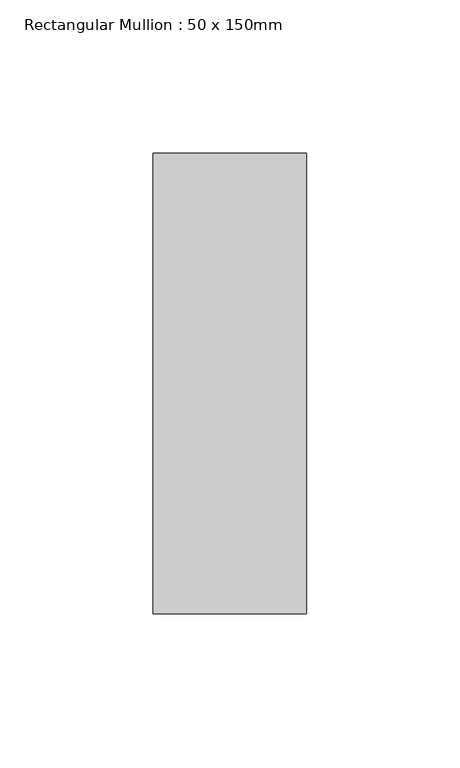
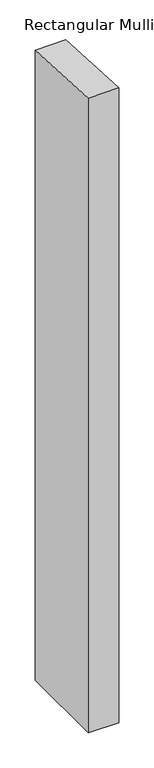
"""IFC4 building model written with IfcOpenShell, lengths in millimetres: member geometry, Rectangular Mullion : 50 x 150mm."""

from ifc_helpers import new_model, si_unit, origin, place, context, project, spatial, faceted_brep, source, transform, mapped, element, save


def rectangular_mullion_50_x_150mm_afde21c2(model_context):
    return source(origin(), model_context, "Body", "Brep", [
        faceted_brep([(0.0, 75.0, -1095.2328072), (0.0, -75.0, -1095.2328072), (-50.0, -75.0, -1095.2328072), (-50.0, 75.0, -1095.2328072), (-50.0, 75.0, -4.294547), (0.0, 75.0, -4.0939938), (-50.0, -75.0, 3.8934406), (0.0, -75.0, 4.0939938)], [[[0, 1, 2, 3]], [[4, 5, 0, 3]], [[6, 4, 3, 2]], [[7, 6, 2, 1]], [[5, 7, 1, 0]], [[5, 4, 6, 7]]]),
    ])


if __name__ == "__main__":
    model = new_model("IFC4")
    model_context = context("Model", 3, world=origin())
    ifc_project = project(units=[si_unit("LENGTHUNIT", "METRE", prefix="MILLI")], contexts=[model_context])
    site = spatial("IfcSite", under=ifc_project)
    building = spatial("IfcBuilding", under=site)
    placement = place(None, origin())
    rectangular_mullion_50_x_150mm_shape = rectangular_mullion_50_x_150mm_afde21c2(model_context)
    element("IfcMember", 1, ObjectType="Rectangular Mullion : 50 x 150mm", at=placement, inside=building, context=model_context, shape_type="MappedRepresentation", body=[
        mapped(rectangular_mullion_50_x_150mm_shape, transform((0.0, 0.0, 0.0), x_axis=(1.0, 0.0, 0.0), y_axis=(0.0, 1.0, 0.0), z_axis=(0.0, 0.0, 1.0))),
    ])
    save(model, "model.ifc")
